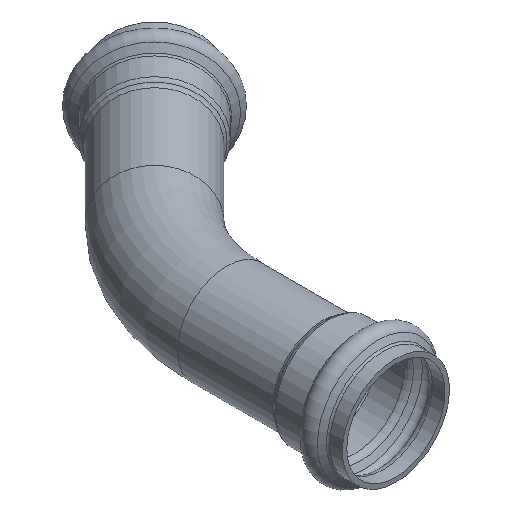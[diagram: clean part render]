
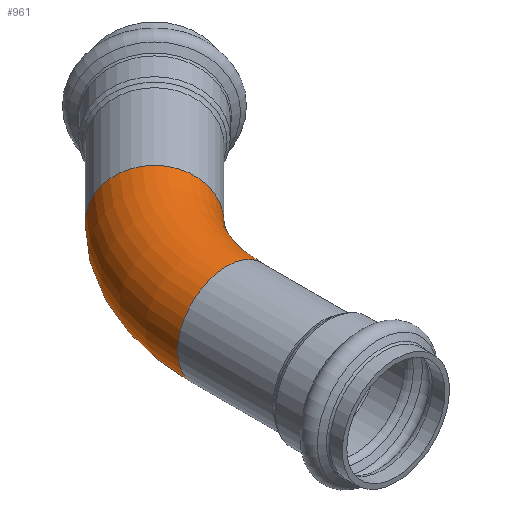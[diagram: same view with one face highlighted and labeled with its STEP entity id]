
A CAD part, isometric view. The second image highlights one B-rep face of the part: STEP entity #961.
In plain terms, the highlighted toroidal (fillet/blend) face has major radius 107.188 mm and minor radius 30.163 mm.
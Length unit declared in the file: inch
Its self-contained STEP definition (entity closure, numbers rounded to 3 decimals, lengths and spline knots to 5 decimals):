
#125=FACE_OUTER_BOUND('',#167,.T.);
#167=EDGE_LOOP('',(#651,#652,#653,#654,#655,#656));
#232=CIRCLE('',#1054,1.1875);
#233=CIRCLE('',#1055,1.1875);
#234=CIRCLE('',#1057,3.0325);
#235=CIRCLE('',#1058,1.1875);
#236=CIRCLE('',#1059,1.1875);
#355=VERTEX_POINT('',#1658);
#356=VERTEX_POINT('',#1660);
#357=VERTEX_POINT('',#1664);
#358=VERTEX_POINT('',#1666);
#475=EDGE_CURVE('',#356,#355,#232,.T.);
#476=EDGE_CURVE('',#355,#356,#233,.T.);
#477=EDGE_CURVE('',#356,#357,#234,.T.);
#478=EDGE_CURVE('',#358,#357,#235,.T.);
#479=EDGE_CURVE('',#357,#358,#236,.T.);
#651=ORIENTED_EDGE('',*,*,#476,.T.);
#652=ORIENTED_EDGE('',*,*,#477,.T.);
#653=ORIENTED_EDGE('',*,*,#478,.F.);
#654=ORIENTED_EDGE('',*,*,#479,.F.);
#655=ORIENTED_EDGE('',*,*,#477,.F.);
#656=ORIENTED_EDGE('',*,*,#475,.T.);
#894=TOROIDAL_SURFACE('',#1056,4.22,1.1875);
#961=ADVANCED_FACE('',(#125),#894,.T.);
#1054=AXIS2_PLACEMENT_3D('',#1661,#1285,#1286);
#1055=AXIS2_PLACEMENT_3D('',#1662,#1287,#1288);
#1056=AXIS2_PLACEMENT_3D('',#1663,#1289,#1290);
#1057=AXIS2_PLACEMENT_3D('',#1665,#1291,#1292);
#1058=AXIS2_PLACEMENT_3D('',#1667,#1293,#1294);
#1059=AXIS2_PLACEMENT_3D('',#1668,#1295,#1296);
#1285=DIRECTION('center_axis',(0.,1.,0.));
#1286=DIRECTION('ref_axis',(1.,0.,0.));
#1287=DIRECTION('center_axis',(0.,1.,0.));
#1288=DIRECTION('ref_axis',(1.,0.,0.));
#1289=DIRECTION('center_axis',(0.,0.,1.));
#1290=DIRECTION('ref_axis',(1.,0.,0.));
#1291=DIRECTION('center_axis',(0.,0.,-1.));
#1292=DIRECTION('ref_axis',(1.,0.,0.));
#1293=DIRECTION('center_axis',(0.707,0.707,0.));
#1294=DIRECTION('ref_axis',(0.707,-0.707,0.));
#1295=DIRECTION('center_axis',(0.707,0.707,0.));
#1296=DIRECTION('ref_axis',(0.707,-0.707,0.));
#1658=CARTESIAN_POINT('',(-1.1875,-1.74798,0.));
#1660=CARTESIAN_POINT('',(1.1875,-1.74798,0.));
#1661=CARTESIAN_POINT('Origin',(0.,-1.74798,
0.));
#1662=CARTESIAN_POINT('Origin',(0.,-1.74798,
0.));
#1663=CARTESIAN_POINT('Origin',(4.22,-1.74798,0.));
#1664=CARTESIAN_POINT('',(2.0757,0.39632,0.));
#1665=CARTESIAN_POINT('Origin',(4.22,-1.74798,0.));
#1666=CARTESIAN_POINT('',(0.39632,2.0757,0.));
#1667=CARTESIAN_POINT('Origin',(1.23601,1.23601,0.));
#1668=CARTESIAN_POINT('Origin',(1.23601,1.23601,0.));
